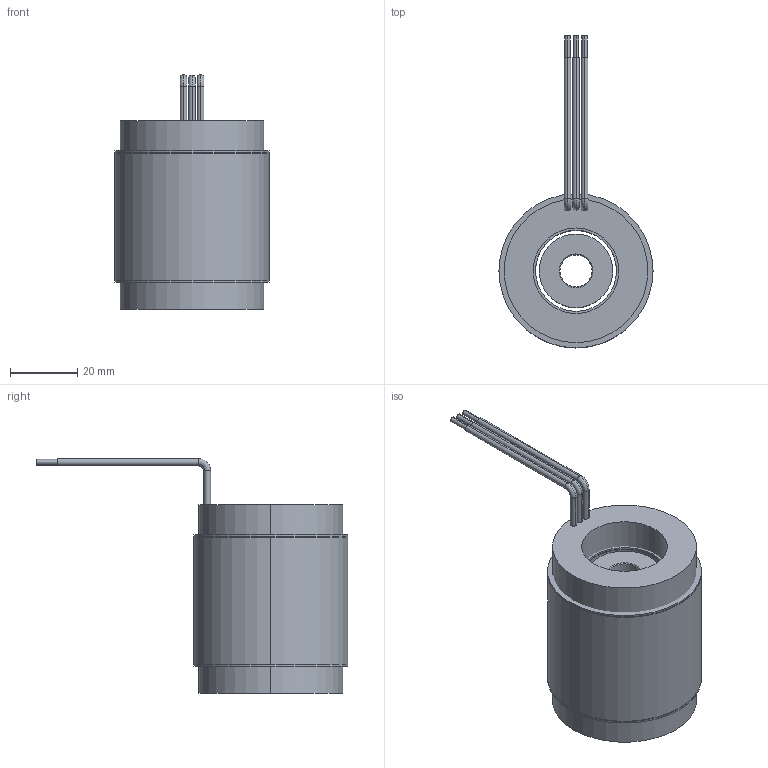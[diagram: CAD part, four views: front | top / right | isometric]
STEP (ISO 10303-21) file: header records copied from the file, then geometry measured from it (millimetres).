
FILE_DESCRIPTION (( 'STEP AP214' ), '1' );
FILE_NAME ('6100251-03.STEP', '2019-11-11T16:46:50', ( '' ), ( '' ), 'SwSTEP 2.0', 'SolidWorks 2016', '' );
FILE_SCHEMA (( 'AUTOMOTIVE_DESIGN' ));
Length unit declared in the file: millimetre
Products named in the file (9): 4450149-XX_4450149-01; 4400029-00; 4250336-XX_4250336-02; 4500512-XX_4500512-03; 4600513-00; COMP4500512-XX(COIL)_COMP4500512-03(COIL); 4150140-XX_4150140-02; 6100251-03
Assembly tree (10 placements, depth 4):
  6100251-03
    4500512-XX_4500512-03
      4450149-XX_4450149-01
        4450149-XX_4450149-01
        4400029-00  x2
        4600513-00  x2
      COMP4500512-XX(COIL)_COMP4500512-03(COIL)
    4250336-XX_4250336-02
      4150140-XX_4150140-02
Bounding box: 45.72 x 92.54 x 69.72 mm (x, y, z)
Volume: 110344.2 mm3; surface area: 39795 mm2
Topology: 7 solids, 7 shells, 76 faces, 152 edges, 96 vertices
Faces by surface type: cylinder 46, plane 20, torus 6, cone 4
Entity records: 2046 total; most frequent: DIRECTION 374, CARTESIAN_POINT 288, ORIENTED_EDGE 256, AXIS2_PLACEMENT_3D 166, EDGE_CURVE 128, CIRCLE 86, VERTEX_POINT 80, EDGE_LOOP 80
